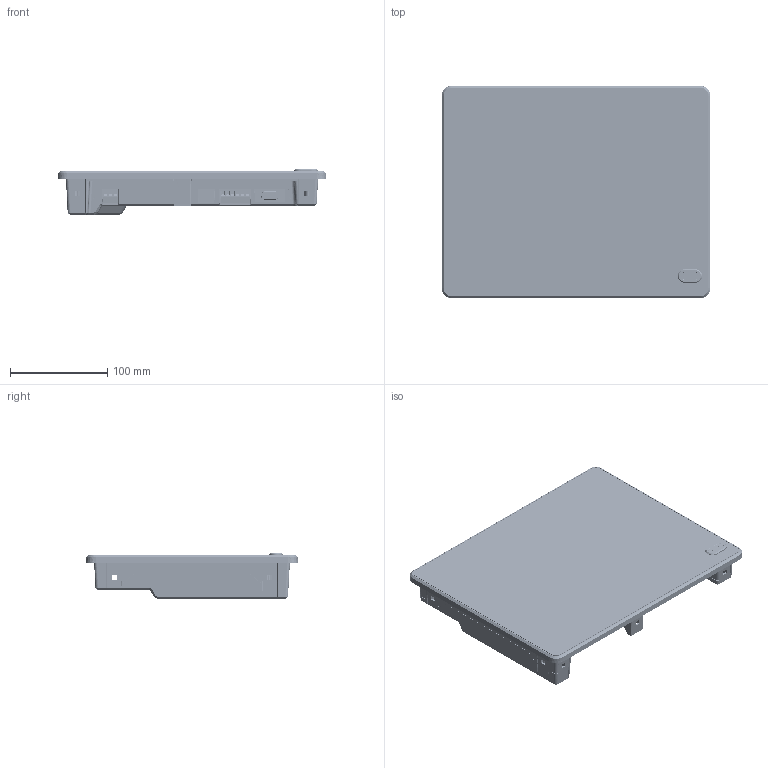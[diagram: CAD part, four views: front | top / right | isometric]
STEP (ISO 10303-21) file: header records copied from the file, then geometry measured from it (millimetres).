
FILE_DESCRIPTION((''),'2;1');
FILE_NAME('EXP60','2016-08-17T',('jwkwack'),(''),'PRO/ENGINEER BY PARAMETRIC TECHNOLOGY CORPORATION, 2013240','PRO/ENGINEER BY PARAMETRIC TECHNOLOGY CORPORATION, 2013240','');
FILE_SCHEMA(('CONFIG_CONTROL_DESIGN'));
Products named in the file (1): EXP60
Bounding box: 276 x 218 x 46.95 mm (x, y, z)
Surface area: 497597.4 mm2 (no closed solid volume)
Topology: 0 solids, 31 shells, 10725 faces, 30074 edges, 19607 vertices
Faces by surface type: plane 6721, extrusion 1787, cylinder 1546, cone 336, bspline 159, torus 156, sphere 20
Entity records: 363315 total; most frequent: CARTESIAN_POINT 97578, ORIENTED_EDGE 59696, DIRECTION 45792, EDGE_CURVE 30054, VECTOR 23100, LINE 21313, VERTEX_POINT 19607, EDGE_LOOP 11421
